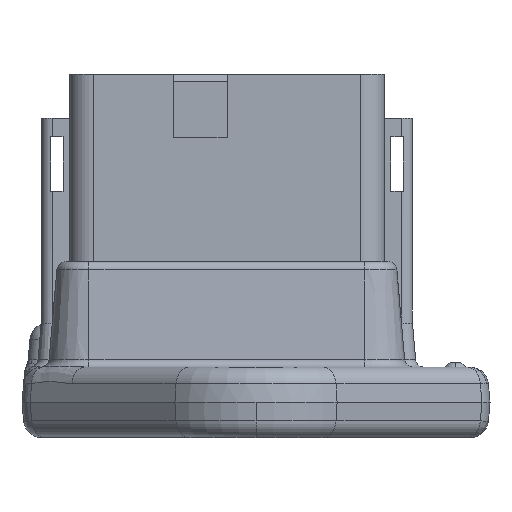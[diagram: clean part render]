
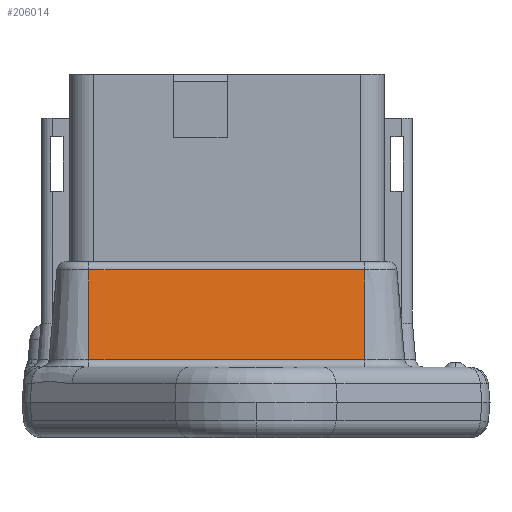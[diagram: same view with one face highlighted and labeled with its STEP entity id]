
A CAD part, left-side view. The second image highlights one B-rep face of the part: STEP entity #206014.
In plain terms, the highlighted planar face has unit normal (-0.996, 0, 0.087).
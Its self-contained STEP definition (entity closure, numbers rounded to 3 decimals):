
#6645 = ORIENTED_EDGE ( 'NONE', *, *, #251904, .F. ) ;
#10782 = DIRECTION ( 'NONE',  ( -0.996, 0., 0.087 ) ) ;
#13723 = VECTOR ( 'NONE', #79791, 1000. ) ;
#21059 = LINE ( 'NONE', #71786, #88673 ) ;
#29569 = CARTESIAN_POINT ( 'NONE',  ( -18.641, 39., 41.073 ) ) ;
#35279 = PLANE ( 'NONE',  #140173 ) ;
#64684 = CARTESIAN_POINT ( 'NONE',  ( -19.147, 0., 35.286 ) ) ;
#71786 = CARTESIAN_POINT ( 'NONE',  ( -19.147, 8.95, 35.286 ) ) ;
#72712 = ORIENTED_EDGE ( 'NONE', *, *, #211207, .T. ) ;
#79446 = VERTEX_POINT ( 'NONE', #313433 ) ;
#79791 = DIRECTION ( 'NONE',  ( -0.087, 0., -0.996 ) ) ;
#88673 = VECTOR ( 'NONE', #94684, 1000. ) ;
#91817 = VERTEX_POINT ( 'NONE', #183063 ) ;
#94684 = DIRECTION ( 'NONE',  ( -0.087, 0., -0.996 ) ) ;
#133815 = LINE ( 'NONE', #159953, #13723 ) ;
#140173 = AXIS2_PLACEMENT_3D ( 'NONE', #64684, #10782, #211957 ) ;
#159300 = VECTOR ( 'NONE', #304171, 1000. ) ;
#159953 = CARTESIAN_POINT ( 'NONE',  ( -19.147, 39., 35.286 ) ) ;
#178237 = LINE ( 'NONE', #278018, #159300 ) ;
#179668 = CARTESIAN_POINT ( 'NONE',  ( -18.641, 39., 41.073 ) ) ;
#183063 = CARTESIAN_POINT ( 'NONE',  ( -19.495, 39., 31.309 ) ) ;
#183309 = VECTOR ( 'NONE', #283123, 1000. ) ;
#201998 = ORIENTED_EDGE ( 'NONE', *, *, #252833, .T. ) ;
#206014 = ADVANCED_FACE ( 'NONE', ( #283978 ), #35279, .T. ) ;
#211207 = EDGE_CURVE ( 'NONE', #91817, #263906, #178237, .T. ) ;
#211957 = DIRECTION ( 'NONE',  ( 0.087, 0., 0.996 ) ) ;
#216415 = VERTEX_POINT ( 'NONE', #179668 ) ;
#218957 = EDGE_LOOP ( 'NONE', ( #6645, #201998, #259315, #72712 ) ) ;
#227581 = LINE ( 'NONE', #29569, #183309 ) ;
#235870 = EDGE_CURVE ( 'NONE', #216415, #91817, #133815, .T. ) ;
#251904 = EDGE_CURVE ( 'NONE', #79446, #263906, #21059, .T. ) ;
#252833 = EDGE_CURVE ( 'NONE', #79446, #216415, #227581, .T. ) ;
#259315 = ORIENTED_EDGE ( 'NONE', *, *, #235870, .T. ) ;
#263906 = VERTEX_POINT ( 'NONE', #306635 ) ;
#278018 = CARTESIAN_POINT ( 'NONE',  ( -19.495, 0., 31.309 ) ) ;
#283123 = DIRECTION ( 'NONE',  ( 0., 1., 0. ) ) ;
#283978 = FACE_OUTER_BOUND ( 'NONE', #218957, .T. ) ;
#304171 = DIRECTION ( 'NONE',  ( 0., -1., 0. ) ) ;
#306635 = CARTESIAN_POINT ( 'NONE',  ( -19.495, 8.95, 31.309 ) ) ;
#313433 = CARTESIAN_POINT ( 'NONE',  ( -18.641, 8.95, 41.073 ) ) ;
